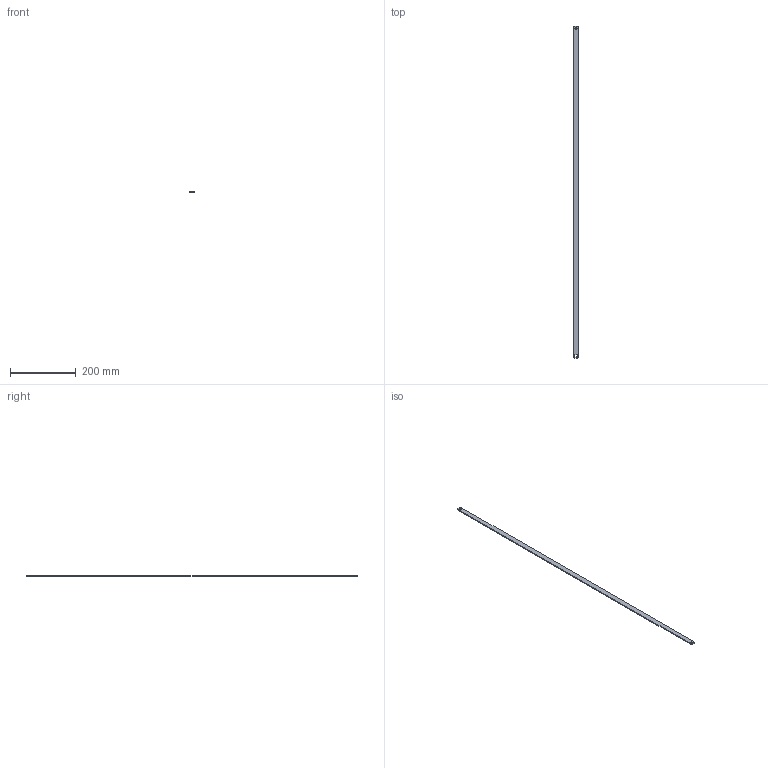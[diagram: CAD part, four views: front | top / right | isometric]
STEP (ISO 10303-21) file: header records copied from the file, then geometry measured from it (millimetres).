
FILE_DESCRIPTION (( 'STEP AP214' ), '1' );
FILE_NAME ('DPK.01 - 1000.STEP', '2016-09-08T08:30:00', ( '' ), ( '' ), 'SwSTEP 2.0', 'SolidWorks 2015', '' );
FILE_SCHEMA (( 'AUTOMOTIVE_DESIGN' ));
Length unit declared in the file: millimetre
Products named in the file (1): DPK.01 - 1000
Bounding box: 14 x 1007.5 x 3 mm (x, y, z)
Volume: 42055.1 mm3; surface area: 34277.5 mm2
Topology: 1 solids, 1 shells, 16 faces, 42 edges, 28 vertices
Faces by surface type: plane 14, cylinder 2
Entity records: 532 total; most frequent: CARTESIAN_POINT 87, ORIENTED_EDGE 84, DIRECTION 80, EDGE_CURVE 42, LINE 38, VECTOR 38, VERTEX_POINT 28, AXIS2_PLACEMENT_3D 21
